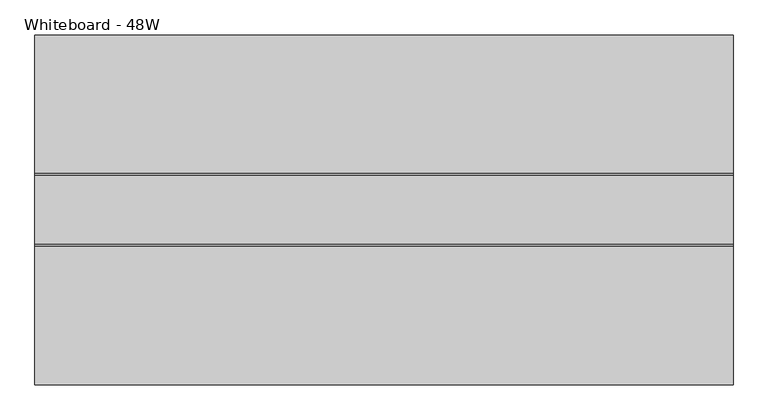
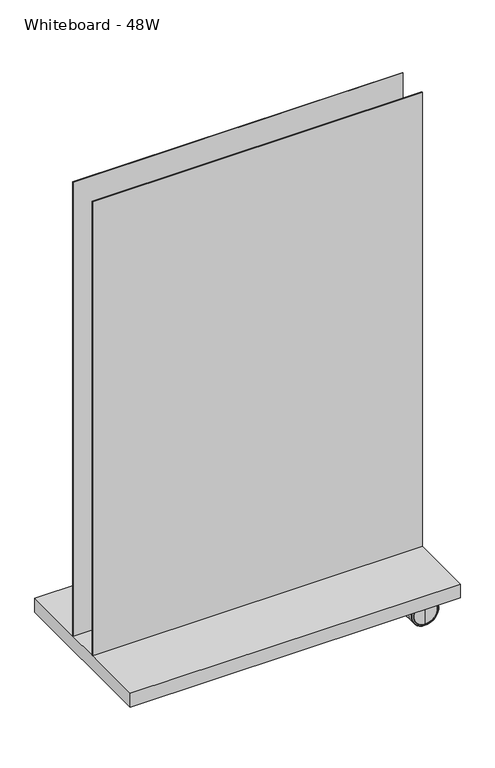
"""IFC4 building model written with IfcOpenShell, lengths in millimetres: furniture geometry, Steelcase Coalesse - Exponents - Storage - Mobile Display Board : Whiteboard - 48W."""

from ifc_helpers import new_model, si_unit, point, frame, frame_2d, origin, place, context, project, spatial, polyline, circle_curve, ellipse_curve, trimmed, segment, composite_curve, outline, extrude, faceted_brep, source, transform, mapped, element, save
from ifc_brep_helpers import plane_surface, cylinder_surface, revolved_surface, advanced_brep


def whiteboard_48w_ad37d8ad(model_context):
    return source(origin(), model_context, "Body", "SolidModel", [
        extrude(outline(polyline([(1219.2, 231.2568925), (0.0, 231.2568925), (0.0, 233.7968925), (1219.2, 233.7968925), (1219.2, 231.2568925)])), frame((0.0, 0.0, 155.2702), z_axis=(0.0, 0.0, 1.0), x_axis=(1.0, 0.0, 0.0)), (0.0, 0.0, 1.0), 1773.428),
        extrude(outline(polyline([(1219.2, 109.3368683), (1219.2, 106.7968683), (0.0, 106.7968683), (0.0, 109.3368683), (1219.2, 109.3368683)])), frame((0.0, 0.0, 155.2702), z_axis=(0.0, 0.0, 1.0), x_axis=(1.0, 0.0, 0.0)), (0.0, 0.0, 1.0), 1773.428),
        advanced_brep(
        [(1117.599997, -28.9699484, 93.7248565), (1117.599997, -28.9699484, 7.16417), (1117.599997, -28.9699484, 50.4445132), (1117.599997, -29.195866, 95.950615), (1117.599997, -29.195866, 4.9384115), (1117.599997, -31.890984, 99.0695917), (1117.599997, -31.890984, 1.8194348), (1117.599997, -31.890984, 100.8890265), (1117.599997, -31.890984, 0.0), (1117.599997, -47.5881484, 100.8890265), (1117.599997, -47.5881484, 0.0), (1117.599997, -47.5881484, 67.9452274), (1117.599997, -47.5881484, 32.943799), (1117.599997, -51.5441984, 67.9452274), (1117.599997, -51.5441984, 32.943799), (1117.599997, -51.5441984, 50.4445132)],
        [
            (0, 1, circle_curve(frame((1117.599997, -28.9699484, 50.4445132), z_axis=(0.0, 1.0, 0.0), x_axis=(0.0, 0.0, -1.0)), 43.2803433)),
            (1, 2),
            (2, 0),
            (1, 0, circle_curve(frame((1117.599997, -28.9699484, 50.4445132), z_axis=(0.0, 1.0, 0.0), x_axis=(0.0, 0.0, -1.0)), 43.2803433)),
            (3, 4, circle_curve(frame((1117.599997, -29.195866, 50.4445132), z_axis=(0.0, 1.0, 0.0), x_axis=(0.0, 0.0, -1.0)), 45.5061018)),
            (4, 1, circle_curve(frame((1117.599997, -40.0470836, 7.16417), z_axis=(1.0, 0.0, 0.0), x_axis=(0.0, 1.0, 0.0)), 11.0771352)),
            (0, 3, circle_curve(frame((1117.599997, -40.0470836, 93.7248565), z_axis=(1.0, 0.0, 0.0), x_axis=(0.0, 1.0, 0.0)), 11.0771352)),
            (4, 3, circle_curve(frame((1117.599997, -29.195866, 50.4445132), z_axis=(0.0, 1.0, 0.0), x_axis=(0.0, 0.0, -1.0)), 45.5061018)),
            (5, 6, circle_curve(frame((1117.599997, -31.890984, 50.4445132), z_axis=(0.0, 1.0, 0.0), x_axis=(0.0, 0.0, -1.0)), 48.6250784)),
            (6, 4, circle_curve(frame((1117.599997, -33.3293578, 5.7862568), z_axis=(1.0, 0.0, 0.0), x_axis=(0.0, 1.0, 0.0)), 4.2195493)),
            (3, 5, circle_curve(frame((1117.599997, -33.3293578, 95.1027696), z_axis=(1.0, 0.0, 0.0), x_axis=(0.0, 1.0, 0.0)), 4.2195493)),
            (6, 5, circle_curve(frame((1117.599997, -31.890984, 50.4445132), z_axis=(0.0, 1.0, 0.0), x_axis=(0.0, 0.0, -1.0)), 48.6250784)),
            (7, 8, circle_curve(frame((1117.599997, -31.890984, 50.4445132), z_axis=(0.0, 1.0, 0.0), x_axis=(0.0, 0.0, -1.0)), 50.4445132)),
            (8, 6),
            (5, 7),
            (8, 7, circle_curve(frame((1117.599997, -31.890984, 50.4445132), z_axis=(0.0, 1.0, 0.0), x_axis=(0.0, 0.0, -1.0)), 50.4445132)),
            (9, 10, circle_curve(frame((1117.599997, -47.5881484, 50.4445132), z_axis=(0.0, 1.0, 0.0), x_axis=(0.0, 0.0, -1.0)), 50.4445132)),
            (10, 8),
            (7, 9),
            (10, 9, circle_curve(frame((1117.599997, -47.5881484, 50.4445132), z_axis=(0.0, 1.0, 0.0), x_axis=(0.0, 0.0, -1.0)), 50.4445132)),
            (11, 12, circle_curve(frame((1117.599997, -47.5881484, 50.4445132), z_axis=(0.0, 1.0, 0.0), x_axis=(0.0, 0.0, -1.0)), 17.5007142)),
            (12, 10),
            (9, 11),
            (12, 11, circle_curve(frame((1117.599997, -47.5881484, 50.4445132), z_axis=(0.0, 1.0, 0.0), x_axis=(0.0, 0.0, -1.0)), 17.5007142)),
            (13, 14, circle_curve(frame((1117.599997, -51.5441984, 50.4445132), z_axis=(0.0, 1.0, 0.0), x_axis=(0.0, 0.0, -1.0)), 17.5007142)),
            (14, 12),
            (11, 13),
            (14, 13, circle_curve(frame((1117.599997, -51.5441984, 50.4445132), z_axis=(0.0, 1.0, 0.0), x_axis=(0.0, 0.0, -1.0)), 17.5007142)),
            (15, 14),
            (13, 15),
        ],
        [
            plane_surface(frame((1117.599997, -28.9699484, 50.4445132), z_axis=(0.0, 1.0, 0.0), x_axis=(0.0, 0.0, -1.0))),
            revolved_surface(trimmed(ellipse_curve(frame((1117.599997, -40.0470836, 7.16417), z_axis=(-1.0, 0.0, 0.0), x_axis=(0.0, 1.0, 0.0)), 11.0771352, 11.0771352), [point((1117.599997, -28.9699484, 7.16417))], [point((1117.599997, -29.195866, 4.9384115))], True, "CARTESIAN"), (1117.599997, -32.3354484, 50.4445132), (0.0, -1.0, 0.0)),
            revolved_surface(trimmed(ellipse_curve(frame((1117.599997, -33.3293578, 5.7862568), z_axis=(-1.0, 0.0, 0.0), x_axis=(0.0, 1.0, 0.0)), 4.2195493, 4.2195493), [point((1117.599997, -29.195866, 4.9384115))], [point((1117.599997, -31.890984, 1.8194348))], True, "CARTESIAN"), (1117.599997, -32.3354484, 50.4445132), (0.0, -1.0, 0.0)),
            plane_surface(frame((1117.599997, -31.890984, 50.4445132), z_axis=(0.0, 1.0, 0.0), x_axis=(0.0, 0.0, -1.0))),
            cylinder_surface(frame((1117.599997, -32.3354484, 50.4445132), z_axis=(0.0, -1.0, 0.0), x_axis=(0.0, 0.0, -1.0)), 50.4445132),
            plane_surface(frame((1117.599997, -47.5881484, 50.4445132), z_axis=(0.0, -1.0, 0.0), x_axis=(0.0, 0.0, -1.0))),
            cylinder_surface(frame((1117.599997, -32.3354484, 50.4445132), z_axis=(0.0, -1.0, 0.0), x_axis=(0.0, 0.0, -1.0)), 17.5007142),
            plane_surface(frame((1117.599997, -51.5441984, 50.4445132), z_axis=(0.0, -1.0, 0.0), x_axis=(0.0, 0.0, -1.0))),
        ],
        [
            (0, [[1, 2, 3]]),
            (0, [[4, -3, -2]]),
            (1, [[5, 6, -1, 7]]),
            (1, [[8, -7, -4, -6]]),
            (2, [[9, 10, -5, 11]]),
            (2, [[12, -11, -8, -10]]),
            (3, [[13, 14, -9, 15]]),
            (3, [[16, -15, -12, -14]]),
            (4, [[17, 18, -13, 19]]),
            (4, [[20, -19, -16, -18]]),
            (5, [[21, 22, -17, 23]]),
            (5, [[24, -23, -20, -22]]),
            (6, [[25, 26, -21, 27]]),
            (6, [[28, -27, -24, -26]]),
            (7, [[29, -25, 30]]),
            (7, [[-30, -28, -29]]),
        ],
    ),
        extrude(outline(composite_curve([segment(polyline([(51.3715027, 1147.8132923), (28.4632097, 1147.8132923)]), True, "CONTINUOUS"), segment(trimmed(circle_curve(frame_2d((55.7451933, 1115.4082185)), 42.360305), [point((28.4632097, 1147.8132923))], [point((92.46506, 1136.5280393))], False, "CARTESIAN"), True, "CONTINUOUS"), segment(trimmed(circle_curve(frame_2d((52.6047711, 1117.4750938)), 44.1798299), [point((92.46506, 1136.5280393))], [point((51.3715027, 1073.3124804))], False, "CARTESIAN"), True, "CONTINUOUS"), segment(polyline([(51.3715027, 1073.3124804), (51.3715027, 1147.8132923)]), True, "CONTINUOUS")], self_intersect=False)), frame((0.0, -71.1936132, 0.0), z_axis=(0.0, 1.0, 0.0), x_axis=(0.0, 0.0, 1.0)), (0.0, 0.0, 1.0), 23.6054648),
        extrude(outline(composite_curve([segment(trimmed(circle_curve(frame_2d((1103.2846799, -59.3908808)), 7.6088517), [point((1103.2846799, -51.7820291))], [point((1103.2846799, -66.9997325))], False, "CARTESIAN"), True, "CONTINUOUS"), segment(trimmed(circle_curve(frame_2d((1103.2846799, -59.3908808)), 7.6088517), [point((1103.2846799, -66.9997325))], [point((1103.2846799, -51.7820291))], False, "CARTESIAN"), True, "CONTINUOUS")], self_intersect=False)), frame((0.0, 0.0, 71.2879049), z_axis=(0.0, 0.0, 1.0), x_axis=(1.0, 0.0, 0.0)), (0.0, 0.0, 1.0), 48.3206977),
        extrude(outline(polyline([(1130.9222923, -86.9387325), (1075.8042923, -86.9387325), (1075.8042923, -31.8207325), (1130.9222923, -31.8207325), (1130.9222923, -86.9387325)])), frame((0.0, 0.0, 119.6086027), z_axis=(0.0, 0.0, 1.0), x_axis=(1.0, 0.0, 0.0)), (0.0, 0.0, 1.0), 3.302),
        advanced_brep(
        [(1117.599997, -67.2375632, 67.9452274), (1117.599997, -67.2375632, 32.943799), (1117.599997, -67.2375632, 50.4445132), (1117.599997, -71.1936132, 67.9452274), (1117.599997, -71.1936132, 32.943799), (1117.599997, -71.1936132, 100.8890265), (1117.599997, -71.1936132, 0.0), (1117.599997, -86.8907776, 100.8890265), (1117.599997, -86.8907776, 0.0), (1117.599997, -86.8907776, 99.0695917), (1117.599997, -86.8907776, 1.8194348), (1117.599997, -89.5858956, 95.950615), (1117.599997, -89.5858956, 4.9384115), (1117.599997, -89.8118132, 93.7248565), (1117.599997, -89.8118132, 7.16417), (1117.599997, -89.8118132, 50.4445132)],
        [
            (0, 1, circle_curve(frame((1117.599997, -67.2375632, 50.4445132), z_axis=(0.0, 1.0, 0.0), x_axis=(0.0, 0.0, -1.0)), 17.5007142)),
            (1, 2),
            (2, 0),
            (1, 0, circle_curve(frame((1117.599997, -67.2375632, 50.4445132), z_axis=(0.0, 1.0, 0.0), x_axis=(0.0, 0.0, -1.0)), 17.5007142)),
            (3, 4, circle_curve(frame((1117.599997, -71.1936132, 50.4445132), z_axis=(0.0, 1.0, 0.0), x_axis=(0.0, 0.0, -1.0)), 17.5007142)),
            (4, 1),
            (0, 3),
            (4, 3, circle_curve(frame((1117.599997, -71.1936132, 50.4445132), z_axis=(0.0, 1.0, 0.0), x_axis=(0.0, 0.0, -1.0)), 17.5007142)),
            (5, 6, circle_curve(frame((1117.599997, -71.1936132, 50.4445132), z_axis=(0.0, 1.0, 0.0), x_axis=(0.0, 0.0, -1.0)), 50.4445132)),
            (6, 4),
            (3, 5),
            (6, 5, circle_curve(frame((1117.599997, -71.1936132, 50.4445132), z_axis=(0.0, 1.0, 0.0), x_axis=(0.0, 0.0, -1.0)), 50.4445132)),
            (7, 8, circle_curve(frame((1117.599997, -86.8907776, 50.4445132), z_axis=(0.0, 1.0, 0.0), x_axis=(0.0, 0.0, -1.0)), 50.4445132)),
            (8, 6),
            (5, 7),
            (8, 7, circle_curve(frame((1117.599997, -86.8907776, 50.4445132), z_axis=(0.0, 1.0, 0.0), x_axis=(0.0, 0.0, -1.0)), 50.4445132)),
            (9, 10, circle_curve(frame((1117.599997, -86.8907776, 50.4445132), z_axis=(0.0, 1.0, 0.0), x_axis=(0.0, 0.0, -1.0)), 48.6250784)),
            (10, 8),
            (7, 9),
            (10, 9, circle_curve(frame((1117.599997, -86.8907776, 50.4445132), z_axis=(0.0, 1.0, 0.0), x_axis=(0.0, 0.0, -1.0)), 48.6250784)),
            (11, 12, circle_curve(frame((1117.599997, -89.5858956, 50.4445132), z_axis=(0.0, 1.0, 0.0), x_axis=(0.0, 0.0, -1.0)), 45.5061018)),
            (12, 10, circle_curve(frame((1117.599997, -85.4524038, 5.7862568), z_axis=(1.0, 0.0, 0.0), x_axis=(0.0, 1.0, 0.0)), 4.2195493)),
            (9, 11, circle_curve(frame((1117.599997, -85.4524038, 95.1027696), z_axis=(1.0, 0.0, 0.0), x_axis=(0.0, 1.0, 0.0)), 4.2195493)),
            (12, 11, circle_curve(frame((1117.599997, -89.5858956, 50.4445132), z_axis=(0.0, 1.0, 0.0), x_axis=(0.0, 0.0, -1.0)), 45.5061018)),
            (13, 14, circle_curve(frame((1117.599997, -89.8118132, 50.4445132), z_axis=(0.0, 1.0, 0.0), x_axis=(0.0, 0.0, -1.0)), 43.2803433)),
            (14, 12, circle_curve(frame((1117.599997, -78.734678, 7.16417), z_axis=(1.0, 0.0, 0.0), x_axis=(0.0, 1.0, 0.0)), 11.0771352)),
            (11, 13, circle_curve(frame((1117.599997, -78.734678, 93.7248565), z_axis=(1.0, 0.0, 0.0), x_axis=(0.0, 1.0, 0.0)), 11.0771352)),
            (14, 13, circle_curve(frame((1117.599997, -89.8118132, 50.4445132), z_axis=(0.0, 1.0, 0.0), x_axis=(0.0, 0.0, -1.0)), 43.2803433)),
            (15, 14),
            (13, 15),
        ],
        [
            plane_surface(frame((1117.599997, -67.2375632, 50.4445132), z_axis=(0.0, 1.0, 0.0), x_axis=(0.0, 0.0, -1.0))),
            cylinder_surface(frame((1117.599997, -86.4463132, 50.4445132), z_axis=(0.0, -1.0, 0.0), x_axis=(0.0, 0.0, -1.0)), 17.5007142),
            plane_surface(frame((1117.599997, -71.1936132, 50.4445132), z_axis=(0.0, 1.0, 0.0), x_axis=(0.0, 0.0, -1.0))),
            cylinder_surface(frame((1117.599997, -86.4463132, 50.4445132), z_axis=(0.0, -1.0, 0.0), x_axis=(0.0, 0.0, -1.0)), 50.4445132),
            plane_surface(frame((1117.599997, -86.8907776, 50.4445132), z_axis=(0.0, -1.0, 0.0), x_axis=(0.0, 0.0, -1.0))),
            revolved_surface(trimmed(ellipse_curve(frame((1117.599997, -85.4524038, 5.7862568), z_axis=(-1.0, 0.0, 0.0), x_axis=(0.0, 1.0, 0.0)), 4.2195493, 4.2195493), [point((1117.599997, -86.8907776, 1.8194348))], [point((1117.599997, -89.5858956, 4.9384115))], True, "CARTESIAN"), (1117.599997, -86.4463132, 50.4445132), (0.0, -1.0, 0.0)),
            revolved_surface(trimmed(ellipse_curve(frame((1117.599997, -78.734678, 7.16417), z_axis=(-1.0, 0.0, 0.0), x_axis=(0.0, 1.0, 0.0)), 11.0771352, 11.0771352), [point((1117.599997, -89.5858956, 4.9384115))], [point((1117.599997, -89.8118132, 7.16417))], True, "CARTESIAN"), (1117.599997, -86.4463132, 50.4445132), (0.0, -1.0, 0.0)),
            plane_surface(frame((1117.599997, -89.8118132, 50.4445132), z_axis=(0.0, -1.0, 0.0), x_axis=(0.0, 0.0, -1.0))),
        ],
        [
            (0, [[1, 2, 3]]),
            (0, [[4, -3, -2]]),
            (1, [[5, 6, -1, 7]]),
            (1, [[8, -7, -4, -6]]),
            (2, [[9, 10, -5, 11]]),
            (2, [[12, -11, -8, -10]]),
            (3, [[13, 14, -9, 15]]),
            (3, [[16, -15, -12, -14]]),
            (4, [[17, 18, -13, 19]]),
            (4, [[20, -19, -16, -18]]),
            (5, [[21, 22, -17, 23]]),
            (5, [[24, -23, -20, -22]]),
            (6, [[25, 26, -21, 27]]),
            (6, [[28, -27, -24, -26]]),
            (7, [[29, -25, 30]]),
            (7, [[-30, -28, -29]]),
        ],
    ),
        advanced_brep(
        [(1117.599997, 392.1379592, 67.9452274), (1117.599997, 392.1379592, 32.943799), (1117.599997, 392.1379592, 50.4445132), (1117.599997, 388.1819092, 67.9452274), (1117.599997, 388.1819092, 32.943799), (1117.599997, 388.1819092, 100.8890265), (1117.599997, 388.1819092, 0.0), (1117.599997, 372.4847448, 100.8890265), (1117.599997, 372.4847448, 0.0), (1117.599997, 372.4847448, 99.0695917), (1117.599997, 372.4847448, 1.8194348), (1117.599997, 369.7896268, 95.950615), (1117.599997, 369.7896268, 4.9384115), (1117.599997, 369.5637092, 93.7248565), (1117.599997, 369.5637092, 7.16417), (1117.599997, 369.5637092, 50.4445132)],
        [
            (0, 1, circle_curve(frame((1117.599997, 392.1379592, 50.4445132), z_axis=(0.0, 1.0, 0.0), x_axis=(0.0, 0.0, -1.0)), 17.5007142)),
            (1, 2),
            (2, 0),
            (1, 0, circle_curve(frame((1117.599997, 392.1379592, 50.4445132), z_axis=(0.0, 1.0, 0.0), x_axis=(0.0, 0.0, -1.0)), 17.5007142)),
            (3, 4, circle_curve(frame((1117.599997, 388.1819092, 50.4445132), z_axis=(0.0, 1.0, 0.0), x_axis=(0.0, 0.0, -1.0)), 17.5007142)),
            (4, 1),
            (0, 3),
            (4, 3, circle_curve(frame((1117.599997, 388.1819092, 50.4445132), z_axis=(0.0, 1.0, 0.0), x_axis=(0.0, 0.0, -1.0)), 17.5007142)),
            (5, 6, circle_curve(frame((1117.599997, 388.1819092, 50.4445132), z_axis=(0.0, 1.0, 0.0), x_axis=(0.0, 0.0, -1.0)), 50.4445132)),
            (6, 4),
            (3, 5),
            (6, 5, circle_curve(frame((1117.599997, 388.1819092, 50.4445132), z_axis=(0.0, 1.0, 0.0), x_axis=(0.0, 0.0, -1.0)), 50.4445132)),
            (7, 8, circle_curve(frame((1117.599997, 372.4847448, 50.4445132), z_axis=(0.0, 1.0, 0.0), x_axis=(0.0, 0.0, -1.0)), 50.4445132)),
            (8, 6),
            (5, 7),
            (8, 7, circle_curve(frame((1117.599997, 372.4847448, 50.4445132), z_axis=(0.0, 1.0, 0.0), x_axis=(0.0, 0.0, -1.0)), 50.4445132)),
            (9, 10, circle_curve(frame((1117.599997, 372.4847448, 50.4445132), z_axis=(0.0, 1.0, 0.0), x_axis=(0.0, 0.0, -1.0)), 48.6250784)),
            (10, 8),
            (7, 9),
            (10, 9, circle_curve(frame((1117.599997, 372.4847448, 50.4445132), z_axis=(0.0, 1.0, 0.0), x_axis=(0.0, 0.0, -1.0)), 48.6250784)),
            (11, 12, circle_curve(frame((1117.599997, 369.7896268, 50.4445132), z_axis=(0.0, 1.0, 0.0), x_axis=(0.0, 0.0, -1.0)), 45.5061018)),
            (12, 10, circle_curve(frame((1117.599997, 373.9231187, 5.7862568), z_axis=(1.0, 0.0, 0.0), x_axis=(0.0, 1.0, 0.0)), 4.2195493)),
            (9, 11, circle_curve(frame((1117.599997, 373.9231187, 95.1027696), z_axis=(1.0, 0.0, 0.0), x_axis=(0.0, 1.0, 0.0)), 4.2195493)),
            (12, 11, circle_curve(frame((1117.599997, 369.7896268, 50.4445132), z_axis=(0.0, 1.0, 0.0), x_axis=(0.0, 0.0, -1.0)), 45.5061018)),
            (13, 14, circle_curve(frame((1117.599997, 369.5637092, 50.4445132), z_axis=(0.0, 1.0, 0.0), x_axis=(0.0, 0.0, -1.0)), 43.2803433)),
            (14, 12, circle_curve(frame((1117.599997, 380.6408444, 7.16417), z_axis=(1.0, 0.0, 0.0), x_axis=(0.0, 1.0, 0.0)), 11.0771352)),
            (11, 13, circle_curve(frame((1117.599997, 380.6408444, 93.7248565), z_axis=(1.0, 0.0, 0.0), x_axis=(0.0, 1.0, 0.0)), 11.0771352)),
            (14, 13, circle_curve(frame((1117.599997, 369.5637092, 50.4445132), z_axis=(0.0, 1.0, 0.0), x_axis=(0.0, 0.0, -1.0)), 43.2803433)),
            (15, 14),
            (13, 15),
        ],
        [
            plane_surface(frame((1117.599997, 392.1379592, 50.4445132), z_axis=(0.0, 1.0, 0.0), x_axis=(0.0, 0.0, -1.0))),
            cylinder_surface(frame((1117.599997, 372.9292092, 50.4445132), z_axis=(0.0, -1.0, 0.0), x_axis=(0.0, 0.0, -1.0)), 17.5007142),
            plane_surface(frame((1117.599997, 388.1819092, 50.4445132), z_axis=(0.0, 1.0, 0.0), x_axis=(0.0, 0.0, -1.0))),
            cylinder_surface(frame((1117.599997, 372.9292092, 50.4445132), z_axis=(0.0, -1.0, 0.0), x_axis=(0.0, 0.0, -1.0)), 50.4445132),
            plane_surface(frame((1117.599997, 372.4847448, 50.4445132), z_axis=(0.0, -1.0, 0.0), x_axis=(0.0, 0.0, -1.0))),
            revolved_surface(trimmed(ellipse_curve(frame((1117.599997, 373.9231187, 5.7862568), z_axis=(-1.0, 0.0, 0.0), x_axis=(0.0, 1.0, 0.0)), 4.2195493, 4.2195493), [point((1117.599997, 372.4847448, 1.8194348))], [point((1117.599997, 369.7896268, 4.9384115))], True, "CARTESIAN"), (1117.599997, 372.9292092, 50.4445132), (0.0, -1.0, 0.0)),
            revolved_surface(trimmed(ellipse_curve(frame((1117.599997, 380.6408444, 7.16417), z_axis=(-1.0, 0.0, 0.0), x_axis=(0.0, 1.0, 0.0)), 11.0771352, 11.0771352), [point((1117.599997, 369.7896268, 4.9384115))], [point((1117.599997, 369.5637092, 7.16417))], True, "CARTESIAN"), (1117.599997, 372.9292092, 50.4445132), (0.0, -1.0, 0.0)),
            plane_surface(frame((1117.599997, 369.5637092, 50.4445132), z_axis=(0.0, -1.0, 0.0), x_axis=(0.0, 0.0, -1.0))),
        ],
        [
            (0, [[1, 2, 3]]),
            (0, [[4, -3, -2]]),
            (1, [[5, 6, -1, 7]]),
            (1, [[8, -7, -4, -6]]),
            (2, [[9, 10, -5, 11]]),
            (2, [[12, -11, -8, -10]]),
            (3, [[13, 14, -9, 15]]),
            (3, [[16, -15, -12, -14]]),
            (4, [[17, 18, -13, 19]]),
            (4, [[20, -19, -16, -18]]),
            (5, [[21, 22, -17, 23]]),
            (5, [[24, -23, -20, -22]]),
            (6, [[25, 26, -21, 27]]),
            (6, [[28, -27, -24, -26]]),
            (7, [[29, -25, 30]]),
            (7, [[-30, -28, -29]]),
        ],
    ),
        extrude(outline(composite_curve([segment(polyline([(51.3715027, 1147.8132923), (28.4632097, 1147.8132923)]), True, "CONTINUOUS"), segment(trimmed(circle_curve(frame_2d((55.7451933, 1115.4082185)), 42.360305), [point((28.4632097, 1147.8132923))], [point((92.46506, 1136.5280393))], False, "CARTESIAN"), True, "CONTINUOUS"), segment(trimmed(circle_curve(frame_2d((52.6047711, 1117.4750938)), 44.1798299), [point((92.46506, 1136.5280393))], [point((51.3715027, 1073.3124804))], False, "CARTESIAN"), True, "CONTINUOUS"), segment(polyline([(51.3715027, 1073.3124804), (51.3715027, 1147.8132923)]), True, "CONTINUOUS")], self_intersect=False)), frame((0.0, 388.1819092, 0.0), z_axis=(0.0, 1.0, 0.0), x_axis=(0.0, 0.0, 1.0)), (0.0, 0.0, 1.0), 23.6054648),
        extrude(outline(composite_curve([segment(trimmed(circle_curve(frame_2d((1103.2846799, 399.9846416)), 7.6088517), [point((1103.2846799, 392.3757899))], [point((1103.2846799, 407.5934933))], False, "CARTESIAN"), True, "CONTINUOUS"), segment(trimmed(circle_curve(frame_2d((1103.2846799, 399.9846416)), 7.6088517), [point((1103.2846799, 407.5934933))], [point((1103.2846799, 392.3757899))], False, "CARTESIAN"), True, "CONTINUOUS")], self_intersect=False)), frame((0.0, 0.0, 71.2879049), z_axis=(0.0, 0.0, 1.0), x_axis=(1.0, 0.0, 0.0)), (0.0, 0.0, 1.0), 48.3206977),
        extrude(outline(polyline([(1130.9222923, 427.5324933), (1130.9222923, 372.4144933), (1075.8042923, 372.4144933), (1075.8042923, 427.5324933), (1130.9222923, 427.5324933)])), frame((0.0, 0.0, 119.6086027), z_axis=(0.0, 0.0, 1.0), x_axis=(1.0, 0.0, 0.0)), (0.0, 0.0, 1.0), 3.302),
        advanced_brep(
        [(1117.599997, 430.405574, 93.7248565), (1117.599997, 430.405574, 7.16417), (1117.599997, 430.405574, 50.4445132), (1117.599997, 430.1796564, 95.950615), (1117.599997, 430.1796564, 4.9384115), (1117.599997, 427.4845384, 99.0695917), (1117.599997, 427.4845384, 1.8194348), (1117.599997, 427.4845384, 100.8890265), (1117.599997, 427.4845384, 0.0), (1117.599997, 411.787374, 100.8890265), (1117.599997, 411.787374, 0.0), (1117.599997, 411.787374, 67.9452274), (1117.599997, 411.787374, 32.943799), (1117.599997, 407.831324, 67.9452274), (1117.599997, 407.831324, 32.943799), (1117.599997, 407.831324, 50.4445132)],
        [
            (0, 1, circle_curve(frame((1117.599997, 430.405574, 50.4445132), z_axis=(0.0, 1.0, 0.0), x_axis=(0.0, 0.0, -1.0)), 43.2803433)),
            (1, 2),
            (2, 0),
            (1, 0, circle_curve(frame((1117.599997, 430.405574, 50.4445132), z_axis=(0.0, 1.0, 0.0), x_axis=(0.0, 0.0, -1.0)), 43.2803433)),
            (3, 4, circle_curve(frame((1117.599997, 430.1796564, 50.4445132), z_axis=(0.0, 1.0, 0.0), x_axis=(0.0, 0.0, -1.0)), 45.5061018)),
            (4, 1, circle_curve(frame((1117.599997, 419.3284388, 7.16417), z_axis=(1.0, 0.0, 0.0), x_axis=(0.0, 1.0, 0.0)), 11.0771352)),
            (0, 3, circle_curve(frame((1117.599997, 419.3284388, 93.7248565), z_axis=(1.0, 0.0, 0.0), x_axis=(0.0, 1.0, 0.0)), 11.0771352)),
            (4, 3, circle_curve(frame((1117.599997, 430.1796564, 50.4445132), z_axis=(0.0, 1.0, 0.0), x_axis=(0.0, 0.0, -1.0)), 45.5061018)),
            (5, 6, circle_curve(frame((1117.599997, 427.4845384, 50.4445132), z_axis=(0.0, 1.0, 0.0), x_axis=(0.0, 0.0, -1.0)), 48.6250784)),
            (6, 4, circle_curve(frame((1117.599997, 426.0461646, 5.7862568), z_axis=(1.0, 0.0, 0.0), x_axis=(0.0, 1.0, 0.0)), 4.2195493)),
            (3, 5, circle_curve(frame((1117.599997, 426.0461646, 95.1027696), z_axis=(1.0, 0.0, 0.0), x_axis=(0.0, 1.0, 0.0)), 4.2195493)),
            (6, 5, circle_curve(frame((1117.599997, 427.4845384, 50.4445132), z_axis=(0.0, 1.0, 0.0), x_axis=(0.0, 0.0, -1.0)), 48.6250784)),
            (7, 8, circle_curve(frame((1117.599997, 427.4845384, 50.4445132), z_axis=(0.0, 1.0, 0.0), x_axis=(0.0, 0.0, -1.0)), 50.4445132)),
            (8, 6),
            (5, 7),
            (8, 7, circle_curve(frame((1117.599997, 427.4845384, 50.4445132), z_axis=(0.0, 1.0, 0.0), x_axis=(0.0, 0.0, -1.0)), 50.4445132)),
            (9, 10, circle_curve(frame((1117.599997, 411.787374, 50.4445132), z_axis=(0.0, 1.0, 0.0), x_axis=(0.0, 0.0, -1.0)), 50.4445132)),
            (10, 8),
            (7, 9),
            (10, 9, circle_curve(frame((1117.599997, 411.787374, 50.4445132), z_axis=(0.0, 1.0, 0.0), x_axis=(0.0, 0.0, -1.0)), 50.4445132)),
            (11, 12, circle_curve(frame((1117.599997, 411.787374, 50.4445132), z_axis=(0.0, 1.0, 0.0), x_axis=(0.0, 0.0, -1.0)), 17.5007142)),
            (12, 10),
            (9, 11),
            (12, 11, circle_curve(frame((1117.599997, 411.787374, 50.4445132), z_axis=(0.0, 1.0, 0.0), x_axis=(0.0, 0.0, -1.0)), 17.5007142)),
            (13, 14, circle_curve(frame((1117.599997, 407.831324, 50.4445132), z_axis=(0.0, 1.0, 0.0), x_axis=(0.0, 0.0, -1.0)), 17.5007142)),
            (14, 12),
            (11, 13),
            (14, 13, circle_curve(frame((1117.599997, 407.831324, 50.4445132), z_axis=(0.0, 1.0, 0.0), x_axis=(0.0, 0.0, -1.0)), 17.5007142)),
            (15, 14),
            (13, 15),
        ],
        [
            plane_surface(frame((1117.599997, 430.405574, 50.4445132), z_axis=(0.0, 1.0, 0.0), x_axis=(0.0, 0.0, -1.0))),
            revolved_surface(trimmed(ellipse_curve(frame((1117.599997, 419.3284388, 7.16417), z_axis=(-1.0, 0.0, 0.0), x_axis=(0.0, 1.0, 0.0)), 11.0771352, 11.0771352), [point((1117.599997, 430.405574, 7.16417))], [point((1117.599997, 430.1796564, 4.9384115))], True, "CARTESIAN"), (1117.599997, 427.040074, 50.4445132), (0.0, -1.0, 0.0)),
            revolved_surface(trimmed(ellipse_curve(frame((1117.599997, 426.0461646, 5.7862568), z_axis=(-1.0, 0.0, 0.0), x_axis=(0.0, 1.0, 0.0)), 4.2195493, 4.2195493), [point((1117.599997, 430.1796564, 4.9384115))], [point((1117.599997, 427.4845384, 1.8194348))], True, "CARTESIAN"), (1117.599997, 427.040074, 50.4445132), (0.0, -1.0, 0.0)),
            plane_surface(frame((1117.599997, 427.4845384, 50.4445132), z_axis=(0.0, 1.0, 0.0), x_axis=(0.0, 0.0, -1.0))),
            cylinder_surface(frame((1117.599997, 427.040074, 50.4445132), z_axis=(0.0, -1.0, 0.0), x_axis=(0.0, 0.0, -1.0)), 50.4445132),
            plane_surface(frame((1117.599997, 411.787374, 50.4445132), z_axis=(0.0, -1.0, 0.0), x_axis=(0.0, 0.0, -1.0))),
            cylinder_surface(frame((1117.599997, 427.040074, 50.4445132), z_axis=(0.0, -1.0, 0.0), x_axis=(0.0, 0.0, -1.0)), 17.5007142),
            plane_surface(frame((1117.599997, 407.831324, 50.4445132), z_axis=(0.0, -1.0, 0.0), x_axis=(0.0, 0.0, -1.0))),
        ],
        [
            (0, [[1, 2, 3]]),
            (0, [[4, -3, -2]]),
            (1, [[5, 6, -1, 7]]),
            (1, [[8, -7, -4, -6]]),
            (2, [[9, 10, -5, 11]]),
            (2, [[12, -11, -8, -10]]),
            (3, [[13, 14, -9, 15]]),
            (3, [[16, -15, -12, -14]]),
            (4, [[17, 18, -13, 19]]),
            (4, [[20, -19, -16, -18]]),
            (5, [[21, 22, -17, 23]]),
            (5, [[24, -23, -20, -22]]),
            (6, [[25, 26, -21, 27]]),
            (6, [[28, -27, -24, -26]]),
            (7, [[29, -25, 30]]),
            (7, [[-30, -28, -29]]),
        ],
    ),
        advanced_brep(
        [(121.6278984, 392.1379592, 67.9452274), (121.6278984, 392.1379592, 32.943799), (121.6278984, 392.1379592, 50.4445132), (121.6278984, 388.1819092, 67.9452274), (121.6278984, 388.1819092, 32.943799), (121.6278984, 388.1819092, 100.8890265), (121.6278984, 388.1819092, 0.0), (121.6278984, 372.4847448, 100.8890265), (121.6278984, 372.4847448, 0.0), (121.6278984, 372.4847448, 99.0695917), (121.6278984, 372.4847448, 1.8194348), (121.6278984, 369.7896268, 95.950615), (121.6278984, 369.7896268, 4.9384115), (121.6278984, 369.5637092, 93.7248565), (121.6278984, 369.5637092, 7.16417), (121.6278984, 369.5637092, 50.4445132)],
        [
            (0, 1, circle_curve(frame((121.6278984, 392.1379592, 50.4445132), z_axis=(0.0, 1.0, 0.0), x_axis=(0.0, 0.0, -1.0)), 17.5007142)),
            (1, 2),
            (2, 0),
            (1, 0, circle_curve(frame((121.6278984, 392.1379592, 50.4445132), z_axis=(0.0, 1.0, 0.0), x_axis=(0.0, 0.0, -1.0)), 17.5007142)),
            (3, 4, circle_curve(frame((121.6278984, 388.1819092, 50.4445132), z_axis=(0.0, 1.0, 0.0), x_axis=(0.0, 0.0, -1.0)), 17.5007142)),
            (4, 1),
            (0, 3),
            (4, 3, circle_curve(frame((121.6278984, 388.1819092, 50.4445132), z_axis=(0.0, 1.0, 0.0), x_axis=(0.0, 0.0, -1.0)), 17.5007142)),
            (5, 6, circle_curve(frame((121.6278984, 388.1819092, 50.4445132), z_axis=(0.0, 1.0, 0.0), x_axis=(0.0, 0.0, -1.0)), 50.4445132)),
            (6, 4),
            (3, 5),
            (6, 5, circle_curve(frame((121.6278984, 388.1819092, 50.4445132), z_axis=(0.0, 1.0, 0.0), x_axis=(0.0, 0.0, -1.0)), 50.4445132)),
            (7, 8, circle_curve(frame((121.6278984, 372.4847448, 50.4445132), z_axis=(0.0, 1.0, 0.0), x_axis=(0.0, 0.0, -1.0)), 50.4445132)),
            (8, 6),
            (5, 7),
            (8, 7, circle_curve(frame((121.6278984, 372.4847448, 50.4445132), z_axis=(0.0, 1.0, 0.0), x_axis=(0.0, 0.0, -1.0)), 50.4445132)),
            (9, 10, circle_curve(frame((121.6278984, 372.4847448, 50.4445132), z_axis=(0.0, 1.0, 0.0), x_axis=(0.0, 0.0, -1.0)), 48.6250784)),
            (10, 8),
            (7, 9),
            (10, 9, circle_curve(frame((121.6278984, 372.4847448, 50.4445132), z_axis=(0.0, 1.0, 0.0), x_axis=(0.0, 0.0, -1.0)), 48.6250784)),
            (11, 12, circle_curve(frame((121.6278984, 369.7896268, 50.4445132), z_axis=(0.0, 1.0, 0.0), x_axis=(0.0, 0.0, -1.0)), 45.5061018)),
            (12, 10, circle_curve(frame((121.6278984, 373.9231187, 5.7862568), z_axis=(1.0, 0.0, 0.0), x_axis=(0.0, -1.0, 0.0)), 4.2195493)),
            (9, 11, circle_curve(frame((121.6278984, 373.9231187, 95.1027696), z_axis=(1.0, 0.0, 0.0), x_axis=(0.0, -1.0, 0.0)), 4.2195493)),
            (12, 11, circle_curve(frame((121.6278984, 369.7896268, 50.4445132), z_axis=(0.0, 1.0, 0.0), x_axis=(0.0, 0.0, -1.0)), 45.5061018)),
            (13, 14, circle_curve(frame((121.6278984, 369.5637092, 50.4445132), z_axis=(0.0, 1.0, 0.0), x_axis=(0.0, 0.0, -1.0)), 43.2803433)),
            (14, 12, circle_curve(frame((121.6278984, 380.6408444, 7.16417), z_axis=(1.0, 0.0, 0.0), x_axis=(0.0, -1.0, 0.0)), 11.0771352)),
            (11, 13, circle_curve(frame((121.6278984, 380.6408444, 93.7248565), z_axis=(1.0, 0.0, 0.0), x_axis=(0.0, -1.0, 0.0)), 11.0771352)),
            (14, 13, circle_curve(frame((121.6278984, 369.5637092, 50.4445132), z_axis=(0.0, 1.0, 0.0), x_axis=(0.0, 0.0, -1.0)), 43.2803433)),
            (15, 14),
            (13, 15),
        ],
        [
            plane_surface(frame((121.6278984, 392.1379592, 50.4445132), z_axis=(0.0, 1.0, 0.0), x_axis=(0.0, 0.0, -1.0))),
            cylinder_surface(frame((121.6278984, 372.9292092, 50.4445132), z_axis=(0.0, -1.0, 0.0), x_axis=(0.0, 0.0, -1.0)), 17.5007142),
            plane_surface(frame((121.6278984, 388.1819092, 50.4445132), z_axis=(0.0, 1.0, 0.0), x_axis=(0.0, 0.0, -1.0))),
            cylinder_surface(frame((121.6278984, 372.9292092, 50.4445132), z_axis=(0.0, -1.0, 0.0), x_axis=(0.0, 0.0, -1.0)), 50.4445132),
            plane_surface(frame((121.6278984, 372.4847448, 50.4445132), z_axis=(0.0, -1.0, 0.0), x_axis=(0.0, 0.0, -1.0))),
            revolved_surface(trimmed(ellipse_curve(frame((121.6278984, 373.9231187, 5.7862568), z_axis=(-1.0, 0.0, 0.0), x_axis=(0.0, -1.0, 0.0)), 4.2195493, 4.2195493), [point((121.6278984, 372.4847448, 1.8194348))], [point((121.6278984, 369.7896268, 4.9384115))], True, "CARTESIAN"), (121.6278984, 372.9292092, 50.4445132), (0.0, -1.0, 0.0)),
            revolved_surface(trimmed(ellipse_curve(frame((121.6278984, 380.6408444, 7.16417), z_axis=(-1.0, 0.0, 0.0), x_axis=(0.0, -1.0, 0.0)), 11.0771352, 11.0771352), [point((121.6278984, 369.7896268, 4.9384115))], [point((121.6278984, 369.5637092, 7.16417))], True, "CARTESIAN"), (121.6278984, 372.9292092, 50.4445132), (0.0, -1.0, 0.0)),
            plane_surface(frame((121.6278984, 369.5637092, 50.4445132), z_axis=(0.0, -1.0, 0.0), x_axis=(0.0, 0.0, -1.0))),
        ],
        [
            (0, [[1, 2, 3]]),
            (0, [[4, -3, -2]]),
            (1, [[5, 6, -1, 7]]),
            (1, [[8, -7, -4, -6]]),
            (2, [[9, 10, -5, 11]]),
            (2, [[12, -11, -8, -10]]),
            (3, [[13, 14, -9, 15]]),
            (3, [[16, -15, -12, -14]]),
            (4, [[17, 18, -13, 19]]),
            (4, [[20, -19, -16, -18]]),
            (5, [[21, 22, -17, 23]]),
            (5, [[24, -23, -20, -22]]),
            (6, [[25, 26, -21, 27]]),
            (6, [[28, -27, -24, -26]]),
            (7, [[29, -25, 30]]),
            (7, [[-30, -28, -29]]),
        ],
    ),
        extrude(outline(composite_curve([segment(polyline([(51.3715027, 152.4507984), (28.4632097, 152.4507984)]), True, "CONTINUOUS"), segment(trimmed(circle_curve(frame_2d((55.7451933, 120.0457245)), 42.360305), [point((28.4632097, 152.4507984))], [point((92.46506, 141.1655453))], False, "CARTESIAN"), True, "CONTINUOUS"), segment(trimmed(circle_curve(frame_2d((52.6047711, 122.1125998)), 44.1798299), [point((92.46506, 141.1655453))], [point((51.3715027, 77.9499865))], False, "CARTESIAN"), True, "CONTINUOUS"), segment(polyline([(51.3715027, 77.9499865), (51.3715027, 152.4507984)]), True, "CONTINUOUS")], self_intersect=False)), frame((0.0, 388.1819092, 0.0), z_axis=(0.0, 1.0, 0.0), x_axis=(0.0, 0.0, 1.0)), (0.0, 0.0, 1.0), 23.6054648),
        extrude(outline(composite_curve([segment(trimmed(circle_curve(frame_2d((87.284686, 399.9846416)), 7.6088517), [point((87.284686, 392.3757899))], [point((87.284686, 407.5934933))], False, "CARTESIAN"), True, "CONTINUOUS"), segment(trimmed(circle_curve(frame_2d((87.284686, 399.9846416)), 7.6088517), [point((87.284686, 407.5934933))], [point((87.284686, 392.3757899))], False, "CARTESIAN"), True, "CONTINUOUS")], self_intersect=False)), frame((0.0, 0.0, 71.2879049), z_axis=(0.0, 0.0, 1.0), x_axis=(1.0, 0.0, 0.0)), (0.0, 0.0, 1.0), 48.3206977),
        extrude(outline(polyline([(114.9222984, 427.5324933), (114.9222984, 372.4144933), (59.8042984, 372.4144933), (59.8042984, 427.5324933), (114.9222984, 427.5324933)])), frame((0.0, 0.0, 119.6086027), z_axis=(0.0, 0.0, 1.0), x_axis=(1.0, 0.0, 0.0)), (0.0, 0.0, 1.0), 3.302),
        advanced_brep(
        [(121.6278984, 430.405574, 93.7248565), (121.6278984, 430.405574, 7.16417), (121.6278984, 430.405574, 50.4445132), (121.6278984, 430.1796564, 95.950615), (121.6278984, 430.1796564, 4.9384115), (121.6278984, 427.4845384, 99.0695917), (121.6278984, 427.4845384, 1.8194348), (121.6278984, 427.4845384, 100.8890265), (121.6278984, 427.4845384, 0.0), (121.6278984, 411.787374, 100.8890265), (121.6278984, 411.787374, 0.0), (121.6278984, 411.787374, 67.9452274), (121.6278984, 411.787374, 32.943799), (121.6278984, 407.831324, 67.9452274), (121.6278984, 407.831324, 32.943799), (121.6278984, 407.831324, 50.4445132)],
        [
            (0, 1, circle_curve(frame((121.6278984, 430.405574, 50.4445132), z_axis=(0.0, 1.0, 0.0), x_axis=(0.0, 0.0, -1.0)), 43.2803433)),
            (1, 2),
            (2, 0),
            (1, 0, circle_curve(frame((121.6278984, 430.405574, 50.4445132), z_axis=(0.0, 1.0, 0.0), x_axis=(0.0, 0.0, -1.0)), 43.2803433)),
            (3, 4, circle_curve(frame((121.6278984, 430.1796564, 50.4445132), z_axis=(0.0, 1.0, 0.0), x_axis=(0.0, 0.0, -1.0)), 45.5061018)),
            (4, 1, circle_curve(frame((121.6278984, 419.3284388, 7.16417), z_axis=(1.0, 0.0, 0.0), x_axis=(0.0, 1.0, 0.0)), 11.0771352)),
            (0, 3, circle_curve(frame((121.6278984, 419.3284388, 93.7248565), z_axis=(1.0, 0.0, 0.0), x_axis=(0.0, 1.0, 0.0)), 11.0771352)),
            (4, 3, circle_curve(frame((121.6278984, 430.1796564, 50.4445132), z_axis=(0.0, 1.0, 0.0), x_axis=(0.0, 0.0, -1.0)), 45.5061018)),
            (5, 6, circle_curve(frame((121.6278984, 427.4845384, 50.4445132), z_axis=(0.0, 1.0, 0.0), x_axis=(0.0, 0.0, -1.0)), 48.6250784)),
            (6, 4, circle_curve(frame((121.6278984, 426.0461646, 5.7862568), z_axis=(1.0, 0.0, 0.0), x_axis=(0.0, 1.0, 0.0)), 4.2195493)),
            (3, 5, circle_curve(frame((121.6278984, 426.0461646, 95.1027696), z_axis=(1.0, 0.0, 0.0), x_axis=(0.0, 1.0, 0.0)), 4.2195493)),
            (6, 5, circle_curve(frame((121.6278984, 427.4845384, 50.4445132), z_axis=(0.0, 1.0, 0.0), x_axis=(0.0, 0.0, -1.0)), 48.6250784)),
            (7, 8, circle_curve(frame((121.6278984, 427.4845384, 50.4445132), z_axis=(0.0, 1.0, 0.0), x_axis=(0.0, 0.0, -1.0)), 50.4445132)),
            (8, 6),
            (5, 7),
            (8, 7, circle_curve(frame((121.6278984, 427.4845384, 50.4445132), z_axis=(0.0, 1.0, 0.0), x_axis=(0.0, 0.0, -1.0)), 50.4445132)),
            (9, 10, circle_curve(frame((121.6278984, 411.787374, 50.4445132), z_axis=(0.0, 1.0, 0.0), x_axis=(0.0, 0.0, -1.0)), 50.4445132)),
            (10, 8),
            (7, 9),
            (10, 9, circle_curve(frame((121.6278984, 411.787374, 50.4445132), z_axis=(0.0, 1.0, 0.0), x_axis=(0.0, 0.0, -1.0)), 50.4445132)),
            (11, 12, circle_curve(frame((121.6278984, 411.787374, 50.4445132), z_axis=(0.0, 1.0, 0.0), x_axis=(0.0, 0.0, -1.0)), 17.5007142)),
            (12, 10),
            (9, 11),
            (12, 11, circle_curve(frame((121.6278984, 411.787374, 50.4445132), z_axis=(0.0, 1.0, 0.0), x_axis=(0.0, 0.0, -1.0)), 17.5007142)),
            (13, 14, circle_curve(frame((121.6278984, 407.831324, 50.4445132), z_axis=(0.0, 1.0, 0.0), x_axis=(0.0, 0.0, -1.0)), 17.5007142)),
            (14, 12),
            (11, 13),
            (14, 13, circle_curve(frame((121.6278984, 407.831324, 50.4445132), z_axis=(0.0, 1.0, 0.0), x_axis=(0.0, 0.0, -1.0)), 17.5007142)),
            (15, 14),
            (13, 15),
        ],
        [
            plane_surface(frame((121.6278984, 430.405574, 50.4445132), z_axis=(0.0, 1.0, 0.0), x_axis=(0.0, 0.0, -1.0))),
            revolved_surface(trimmed(ellipse_curve(frame((121.6278984, 419.3284388, 7.16417), z_axis=(-1.0, 0.0, 0.0), x_axis=(0.0, 1.0, 0.0)), 11.0771352, 11.0771352), [point((121.6278984, 430.405574, 7.16417))], [point((121.6278984, 430.1796564, 4.9384115))], True, "CARTESIAN"), (121.6278984, 427.040074, 50.4445132), (0.0, -1.0, 0.0)),
            revolved_surface(trimmed(ellipse_curve(frame((121.6278984, 426.0461646, 5.7862568), z_axis=(-1.0, 0.0, 0.0), x_axis=(0.0, 1.0, 0.0)), 4.2195493, 4.2195493), [point((121.6278984, 430.1796564, 4.9384115))], [point((121.6278984, 427.4845384, 1.8194348))], True, "CARTESIAN"), (121.6278984, 427.040074, 50.4445132), (0.0, -1.0, 0.0)),
            plane_surface(frame((121.6278984, 427.4845384, 50.4445132), z_axis=(0.0, 1.0, 0.0), x_axis=(0.0, 0.0, -1.0))),
            cylinder_surface(frame((121.6278984, 427.040074, 50.4445132), z_axis=(0.0, -1.0, 0.0), x_axis=(0.0, 0.0, -1.0)), 50.4445132),
            plane_surface(frame((121.6278984, 411.787374, 50.4445132), z_axis=(0.0, -1.0, 0.0), x_axis=(0.0, 0.0, -1.0))),
            cylinder_surface(frame((121.6278984, 427.040074, 50.4445132), z_axis=(0.0, -1.0, 0.0), x_axis=(0.0, 0.0, -1.0)), 17.5007142),
            plane_surface(frame((121.6278984, 407.831324, 50.4445132), z_axis=(0.0, -1.0, 0.0), x_axis=(0.0, 0.0, -1.0))),
        ],
        [
            (0, [[1, 2, 3]]),
            (0, [[4, -3, -2]]),
            (1, [[5, 6, -1, 7]]),
            (1, [[8, -7, -4, -6]]),
            (2, [[9, 10, -5, 11]]),
            (2, [[12, -11, -8, -10]]),
            (3, [[13, 14, -9, 15]]),
            (3, [[16, -15, -12, -14]]),
            (4, [[17, 18, -13, 19]]),
            (4, [[20, -19, -16, -18]]),
            (5, [[21, 22, -17, 23]]),
            (5, [[24, -23, -20, -22]]),
            (6, [[25, 26, -21, 27]]),
            (6, [[28, -27, -24, -26]]),
            (7, [[29, -25, 30]]),
            (7, [[-30, -28, -29]]),
        ],
    ),
        faceted_brep([(1219.2, 476.0112868, 155.2702), (0.0, 476.0112868, 155.2702), (0.0, -135.417526, 155.2702), (1219.2, -135.417526, 155.2702), (1206.4999996, 454.6498863, 122.9106027), (1206.4999996, -114.0561255, 122.9106027), (12.7000004, -114.0561255, 122.9106027), (12.7000004, 454.6498863, 122.9106027), (1219.2, 476.0112868, 101.2952), (0.0, 476.0112868, 101.2952), (0.0, -135.417526, 101.2952), (1219.2, -135.417526, 101.2952), (1206.4999996, 454.6498863, 101.2952), (12.7000004, 454.6498863, 101.2952), (12.7000004, -114.0561255, 101.2952), (1206.4999996, -114.0561255, 101.2952)], [[[0, 1, 2, 3]], [[4, 5, 6, 7]], [[1, 0, 8, 9]], [[2, 1, 9, 10]], [[3, 2, 10, 11]], [[8, 0, 3, 11]], [[8, 11, 10, 9], [12, 13, 14, 15]], [[12, 15, 5, 4]], [[15, 14, 6, 5]], [[14, 13, 7, 6]], [[13, 12, 4, 7]]]),
    ])


if __name__ == "__main__":
    model = new_model("IFC4")
    model_context = context("Model", 3, world=origin())
    ifc_project = project(units=[si_unit("LENGTHUNIT", "METRE", prefix="MILLI")], contexts=[model_context])
    site = spatial("IfcSite", under=ifc_project)
    building = spatial("IfcBuilding", under=site)
    placement = place(None, origin())
    whiteboard_48w_shape = whiteboard_48w_ad37d8ad(model_context)
    element("IfcFurniture", 1, ObjectType="Steelcase Coalesse - Exponents - Storage - Mobile Display Board : Whiteboard - 48W", at=placement, inside=building, context=model_context, shape_type="MappedRepresentation", body=[
        mapped(whiteboard_48w_shape, transform((0.0, 0.0, 0.0), x_axis=(1.0, 0.0, 0.0), y_axis=(0.0, 1.0, 0.0), z_axis=(0.0, 0.0, 1.0))),
    ])
    save(model, "model.ifc")
